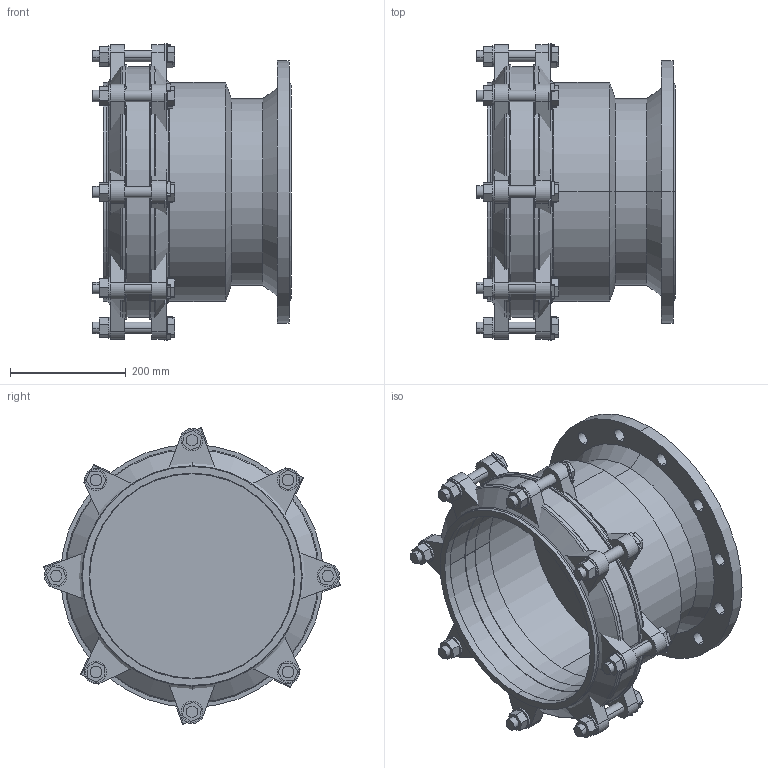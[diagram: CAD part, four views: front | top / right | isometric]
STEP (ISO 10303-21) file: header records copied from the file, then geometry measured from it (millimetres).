
FILE_DESCRIPTION(('STEP AP214'),'1');
FILE_NAME('EM000067 DN 300.STP','2015-01-29T14:10:25',(' '),(' '),'Spatial InterOp 3D',' ',' ');
FILE_SCHEMA(('automotive_design'));
Length unit declared in the file: millimetre
Products named in the file (42): 3D-Objekt
Bounding box: 344 x 513.78 x 513.78 mm (x, y, z)
Volume: 10274270.8 mm3; surface area: 2109835 mm2
Topology: 42 solids, 42 shells, 530 faces, 1240 edges, 826 vertices
Faces by surface type: plane 356, cylinder 148, cone 14, torus 12
Entity records: 20457 total; most frequent: DIRECTION 2742, CARTESIAN_POINT 2638, ORIENTED_EDGE 2480, EDGE_CURVE 1240, AXIS2_PLACEMENT_3D 930, LINE 882, VECTOR 882, VERTEX_POINT 826
